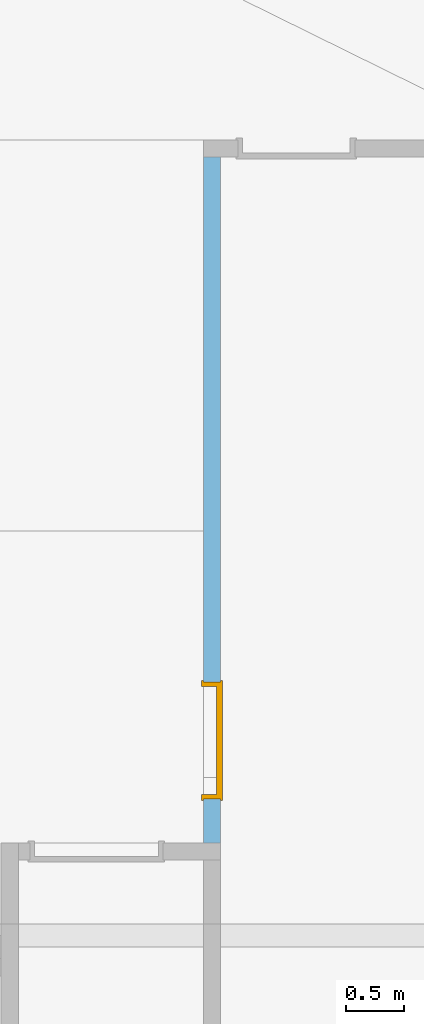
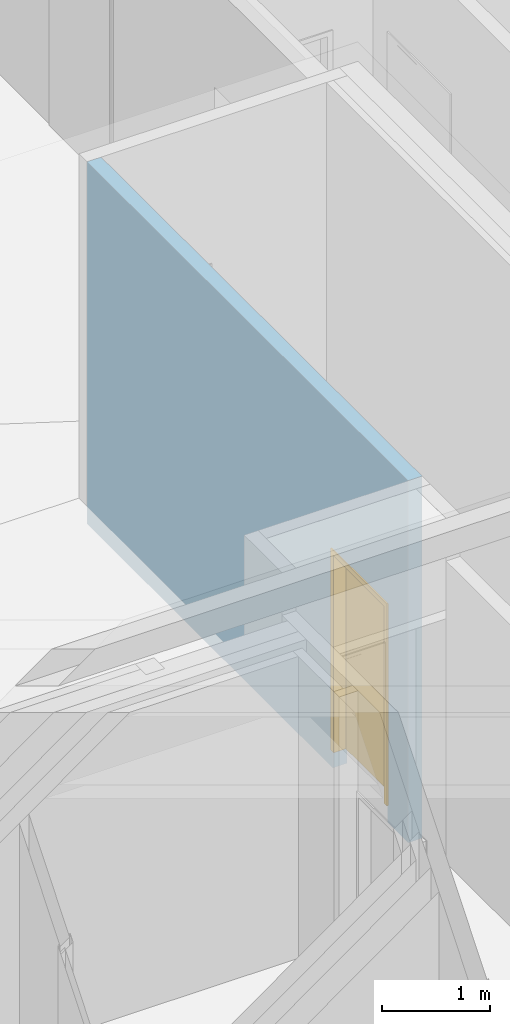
# One storey, part 12 of 23: 1 door, 1 opening, plus 1 element that does not belong to this part.
"""IFC4 building model written with IfcOpenShell, lengths in metres."""

import ifcopenshell
import ifcopenshell.guid

model = None  # the IFC model being written
_history = None  # IfcOwnerHistory: only IFC2X3 demands one
_inside = {}  # id of a spatial element -> (the spatial element, [elements in it])
_under = {}  # id of a project, library or spatial element -> (it, [spatial elements below it])
_declared = {}  # id of a project -> (the project, [libraries it declares])
_typed = {}  # id of a type object -> (the type object, [elements of that type])
_made_of = {}  # id of a material, layer set ... -> (it, [elements and type objects made of it])


def new_model(schema):
    """Start an empty IFC model of exactly this schema.

    Asked for "IFC4X3", IfcOpenShell would pick the latest addendum, in which some entities
    have other attributes; the version numbers below select the first issue.
    IFC2X3 requires an IfcOwnerHistory on every rooted entity: one is made here for all.
    """
    global model, _history
    if schema == "IFC4X3":
        model = ifcopenshell.file(schema_version=(4, 3, 0, 0))
    else:
        model = ifcopenshell.file(schema=schema)
    _inside.clear()
    _under.clear()
    _declared.clear()
    _typed.clear()
    _made_of.clear()
    _history = None
    if model.schema == "IFC2X3":
        org = make("IfcOrganization", Name="unknown")
        user = make(
            "IfcPersonAndOrganization",
            ThePerson=make("IfcPerson", FamilyName="unknown"),
            TheOrganization=org,
        )
        app = make(
            "IfcApplication",
            ApplicationDeveloper=org,
            Version="unknown",
            ApplicationFullName="unknown",
            ApplicationIdentifier="unknown",
        )
        _history = make(
            "IfcOwnerHistory",
            OwningUser=user,
            OwningApplication=app,
            ChangeAction="ADDED",
            CreationDate=0,
        )
    return model


def make(cls, **values):
    """One entity of the class cls with the attributes given. An attribute that is None is left unset."""
    return model.create_entity(
        cls, **{name: value for name, value in values.items() if value is not None}
    )


def entity(cls, *values):
    """Any entity or typed value of the class cls, its attributes in the order of the schema. None: left unset."""
    e = model.create_entity(cls)
    for i, value in enumerate(values):
        if value is not None:
            e[i] = value
    return e


def rooted(cls, **values):
    """An entity with a GlobalId (a new one), such as an element, a storey or a relation."""
    return make(cls, GlobalId=ifcopenshell.guid.new(), OwnerHistory=_history, **values)


def si_unit(unit_type, name, prefix=None):
    """IfcSIUnit, for example si_unit("LENGTHUNIT", "METRE", prefix="MILLI")."""
    return make("IfcSIUnit", UnitType=unit_type, Prefix=prefix, Name=name)


def converted_unit(unit_type, name, factor, base, dimensions=None, offset=None):
    """IfcConversionBasedUnit, such as the inch: factor (a typed value) times the base unit."""
    return make(
        "IfcConversionBasedUnit"
        if offset is None
        else "IfcConversionBasedUnitWithOffset",
        ConversionOffset=offset,
        Dimensions=None
        if dimensions is None
        else entity("IfcDimensionalExponents", *dimensions),
        UnitType=unit_type,
        Name=name,
        ConversionFactor=make(
            "IfcMeasureWithUnit", ValueComponent=factor, UnitComponent=base
        ),
    )


def derived_unit(unit_type, elements):
    """IfcDerivedUnit: a product of units, each with its exponent."""
    return make(
        "IfcDerivedUnit",
        Elements=[
            make("IfcDerivedUnitElement", Unit=unit, Exponent=power)
            for unit, power in elements
        ],
        UnitType=unit_type,
    )


def assignment(units):
    """IfcUnitAssignment: the units of a project."""
    return None if units is None else make("IfcUnitAssignment", Units=units)


def point(xyz):
    """IfcCartesianPoint."""
    return None if xyz is None else make("IfcCartesianPoint", Coordinates=xyz)


def direction(xyz):
    """IfcDirection."""
    return None if xyz is None else make("IfcDirection", DirectionRatios=xyz)


def frame(location, z_axis=None, x_axis=None):
    """IfcAxis2Placement3D, a coordinate frame: its origin and axes. An axis left out is left unset."""
    return make(
        "IfcAxis2Placement3D",
        Location=point(location),
        Axis=direction(z_axis),
        RefDirection=direction(x_axis),
    )


def frame_2d(location, x_axis=None):
    """IfcAxis2Placement2D, a coordinate frame in the plane: its origin and x axis."""
    return make(
        "IfcAxis2Placement2D", Location=point(location), RefDirection=direction(x_axis)
    )


def origin():
    """The frame at (0, 0, 0) with its axes left unset."""
    return frame((0.0, 0.0, 0.0))


def origin_with_axes():
    """The frame at (0, 0, 0) with the z axis (0, 0, 1) and the x axis (1, 0, 0) written out."""
    return frame((0.0, 0.0, 0.0), z_axis=(0.0, 0.0, 1.0), x_axis=(1.0, 0.0, 0.0))


def place(relative_to, where):
    """IfcLocalPlacement: puts the frame where relative to a parent placement (None: the world)."""
    return make(
        "IfcLocalPlacement", PlacementRelTo=relative_to, RelativePlacement=where
    )


def context(
    kind, dimensions, precision=None, world=None, true_north=None, identifier=None
):
    """IfcGeometricRepresentationContext, for example the 3D "Model" context."""
    return make(
        "IfcGeometricRepresentationContext",
        ContextIdentifier=identifier,
        ContextType=kind,
        CoordinateSpaceDimension=dimensions,
        Precision=precision,
        WorldCoordinateSystem=world,
        TrueNorth=true_north,
    )


def subcontext(parent, identifier, kind, view, scale=None):
    """IfcGeometricRepresentationSubContext, for example "Body" below "Model"."""
    return make(
        "IfcGeometricRepresentationSubContext",
        ContextIdentifier=identifier,
        ContextType=kind,
        ParentContext=parent,
        TargetScale=scale,
        TargetView=view,
    )


def project(units=None, contexts=None):
    """IfcProject with its units and contexts."""
    return rooted(
        "IfcProject",
        Name="project",
        RepresentationContexts=contexts,
        UnitsInContext=assignment(units),
    )


def spatial(cls, under=None, at=None, **own):
    """A site, building, storey or space (cls), placed at a placement, below another one or the project."""
    s = rooted(cls, ObjectPlacement=at, **own)
    if under is not None:
        _under.setdefault(under.id(), (under, []))[1].append(s)
    return s


def polyline(points):
    """IfcPolyline through the points."""
    return make("IfcPolyline", Points=[point(p) for p in points])


def profile(cls, at=None, kind="AREA", **sizes):
    """A parametric profile (cls). Its sizes go by their IFC names, for example OverallWidth=200.0."""
    return make(cls, ProfileType=kind, Position=at, **sizes)


def rectangle(**sizes):
    """IfcRectangleProfileDef."""
    return profile("IfcRectangleProfileDef", **sizes)


def outline(outer, holes=None, kind="AREA"):
    """IfcArbitraryClosedProfileDef: a profile drawn as a closed curve; with holes, ...WithVoids."""
    if holes is None:
        return make("IfcArbitraryClosedProfileDef", ProfileType=kind, OuterCurve=outer)
    return make(
        "IfcArbitraryProfileDefWithVoids",
        ProfileType=kind,
        OuterCurve=outer,
        InnerCurves=holes,
    )


def extrude(swept, where, along, depth):
    """IfcExtrudedAreaSolid: the profile swept, set in the frame where, extruded along a direction by depth."""
    return make(
        "IfcExtrudedAreaSolid",
        SweptArea=swept,
        Position=where,
        ExtrudedDirection=direction(along),
        Depth=depth,
    )


def faces_of(points, faces, orient=None, outer=None):
    """IfcFace entities. A face is a list of loops; a loop is a list of indices into points, from 0.

    orient and outer hold one flag for each loop. By default every Orientation is true, the
    first loop of a face is its IfcFaceOuterBound and the others are IfcFaceBound.
    """
    made = []
    for i, loops in enumerate(faces):
        bounds = []
        for j, loop in enumerate(loops):
            is_outer = j == 0 if outer is None else outer[i][j]
            bounds.append(
                make(
                    "IfcFaceOuterBound" if is_outer else "IfcFaceBound",
                    Bound=make("IfcPolyLoop", Polygon=[points[k] for k in loop]),
                    Orientation=True if orient is None else orient[i][j],
                )
            )
        made.append(make("IfcFace", Bounds=bounds))
    return made


def faceted_brep(points, faces, orient=None, outer=None, voids=None):
    """IfcFacetedBrep: a solid bounded by flat faces; with voids (closed shells), ...WithVoids."""
    shared = [point(p) for p in points]
    hull = make("IfcClosedShell", CfsFaces=faces_of(shared, faces, orient, outer))
    if voids is None:
        return make("IfcFacetedBrep", Outer=hull)
    return make(
        "IfcFacetedBrepWithVoids",
        Outer=hull,
        Voids=[
            make(cls, CfsFaces=faces_of(shared, fs, o, b)) for cls, fs, o, b in voids
        ],
    )


def shape(context_of_items, identifier, shape_type, items):
    """IfcShapeRepresentation: the items that make up one representation, for example the "Body"."""
    return make(
        "IfcShapeRepresentation",
        ContextOfItems=context_of_items,
        RepresentationIdentifier=identifier,
        RepresentationType=shape_type,
        Items=items,
    )


def source(mapping_origin, context_of_items, identifier, shape_type, items):
    """IfcRepresentationMap: a shape defined once, which mapped items show again and again."""
    return make(
        "IfcRepresentationMap",
        MappingOrigin=mapping_origin,
        MappedRepresentation=shape(context_of_items, identifier, shape_type, items),
    )


def transform(
    local_origin,
    x_axis=None,
    y_axis=None,
    z_axis=None,
    scale=None,
    scale2=None,
    scale3=None,
    uniform=True,
):
    """IfcCartesianTransformationOperator3D, or its non-uniform kind. x_axis, y_axis, z_axis: its Axis1, 2, 3."""
    if uniform:
        return make(
            "IfcCartesianTransformationOperator3D",
            Axis1=direction(x_axis),
            Axis2=direction(y_axis),
            LocalOrigin=point(local_origin),
            Scale=scale,
            Axis3=direction(z_axis),
        )
    return make(
        "IfcCartesianTransformationOperator3DnonUniform",
        Axis1=direction(x_axis),
        Axis2=direction(y_axis),
        LocalOrigin=point(local_origin),
        Scale=scale,
        Axis3=direction(z_axis),
        Scale2=scale2,
        Scale3=scale3,
    )


def mapped(mapping_source, mapping_target):
    """IfcMappedItem: shows the shape of a source again, moved by a transform."""
    return make(
        "IfcMappedItem", MappingSource=mapping_source, MappingTarget=mapping_target
    )


def material(Name=None, Category=None):
    """IfcMaterial."""
    return make("IfcMaterial", Name=Name, Category=Category)


def made_of(thing, what):
    """Note that an element or type object is made of a material, layer set ...; save() writes the relation."""
    if what is not None:
        _made_of.setdefault(what.id(), (what, []))[1].append(thing)
    return thing


def type_object(cls, material=None, **own):
    """A type object (cls), such as IfcWallType, which elements share."""
    return made_of(rooted(cls, **own), material)


def element(
    cls,
    number,
    at=None,
    inside=None,
    cuts=None,
    type_object=None,
    material=None,
    context=None,
    identifier="Body",
    shape_type=None,
    held_by="IfcProductDefinitionShape",
    body=None,
    shapes=None,
    **own,
):
    """One element of the class cls, such as IfcWall. Its Tag is "e" and its number.

    at: its placement. inside: the storey or other place that contains it. cuts: it is an
    opening in that element (IfcRelVoidsElement). A single representation is given by context,
    identifier, shape_type and body (its items); several are given by shapes. held_by: the class
    of the entity that holds the representations. save() writes the other relations.
    """
    e = rooted(cls, Tag="e%d" % number, ObjectPlacement=at, **own)
    if body is not None:
        shapes = [shape(context, identifier, shape_type, body)]
    if shapes is not None:
        e.Representation = make(held_by, Representations=shapes)
    if inside is not None:
        _inside.setdefault(inside.id(), (inside, []))[1].append(e)
    if cuts is not None:
        rooted(
            "IfcRelVoidsElement", RelatingBuildingElement=cuts, RelatedOpeningElement=e
        )
    if type_object is not None:
        _typed.setdefault(type_object.id(), (type_object, []))[1].append(e)
    return made_of(e, material)


def fill(opening, filler):
    """IfcRelFillsElement: the door or window that sits in an opening."""
    return rooted(
        "IfcRelFillsElement",
        RelatingOpeningElement=opening,
        RelatedBuildingElement=filler,
    )


def aggregate(whole, parts):
    """IfcRelAggregates: a whole, such as a stair, and the parts it consists of."""
    return rooted("IfcRelAggregates", RelatingObject=whole, RelatedObjects=parts)


def save(model, path):
    """Write the relations noted so far, then the file.

    IfcRelAggregates (storeys below a building ...), IfcRelContainedInSpatialStructure (elements
    in a storey), IfcRelDefinesByType, IfcRelAssociatesMaterial and IfcRelDeclares: one each for
    every whole, place, type object, material and project.
    """
    for whole, parts in _under.values():
        aggregate(whole, parts)
    for where, things in _inside.values():
        rooted(
            "IfcRelContainedInSpatialStructure",
            RelatedElements=things,
            RelatingStructure=where,
        )
    for kind, things in _typed.values():
        rooted("IfcRelDefinesByType", RelatedObjects=things, RelatingType=kind)
    for what, things in _made_of.values():
        rooted("IfcRelAssociatesMaterial", RelatedObjects=things, RelatingMaterial=what)
    for by, libraries in _declared.values():
        rooted("IfcRelDeclares", RelatingContext=by, RelatedDefinitions=libraries)
    model.write(path)


model = new_model("IFC4")

# Units and contexts
model_context = context("Model", 3, precision=1e-05, world=origin())
body_context = subcontext(model_context, "Body", "Model", "MODEL_VIEW")
ifc_project = project(units=[si_unit("LENGTHUNIT", "METRE"), si_unit("AREAUNIT", "SQUARE_METRE"), si_unit("VOLUMEUNIT", "CUBIC_METRE"), si_unit("MASSUNIT", "GRAM", prefix="KILO"), converted_unit("PLANEANGLEUNIT", "DEGREE", entity("IfcPlaneAngleMeasure", 0.0174532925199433), si_unit("PLANEANGLEUNIT", "RADIAN"), dimensions=[0, 0, 0, 0, 0, 0, 0]), derived_unit("THERMALTRANSMITTANCEUNIT", [(si_unit("POWERUNIT", "WATT"), 1), (si_unit("THERMODYNAMICTEMPERATUREUNIT", "KELVIN"), -1), (si_unit("LENGTHUNIT", "METRE"), -2)]), derived_unit("VOLUMETRICFLOWRATEUNIT", [(si_unit("LENGTHUNIT", "METRE"), 3), (converted_unit("TIMEUNIT", "hour", entity("IfcTimeMeasure", 3600.0), si_unit("TIMEUNIT", "SECOND"), dimensions=[0, 0, 1, 0, 0, 0, 0]), -1), (si_unit("LENGTHUNIT", "METRE"), -1)])], contexts=[model_context])

# Site, building, storey
site_placement = place(None, origin())
site = spatial("IfcSite", under=ifc_project, at=site_placement, Name="Psychiatrie Neubau Wunstorf", CompositionType="ELEMENT")
building_placement = place(site_placement, origin())
building = spatial("IfcBuilding", under=site, at=building_placement, Name="Neubau H1 Sozialzentrum", CompositionType="ELEMENT")
storey_placement = place(building_placement, frame((0.0, 0.0, 0.7)))
storey = spatial("IfcBuildingStorey", under=building, at=storey_placement, Name="H1 Ebene 0", CompositionType="ELEMENT", Elevation=0.7)

# Wall, opening, door
ifc_material_1 = material(Name="WI-IW")
wall_placement = place(storey_placement, frame((-7.94152706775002, 21.1382463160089, -0.2), z_axis=(0.0, 0.0, 1.0), x_axis=(7.4479226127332e-08, -0.999999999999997, 0.0)))
wall = element("IfcWall", 1, at=wall_placement, inside=storey, material=ifc_material_1, context=body_context, shape_type="SweptSolid", body=[
    extrude(rectangle(XDim=5.92599993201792, YDim=0.149999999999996, at=frame_2d((2.96299996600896, 0.0749999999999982), x_axis=(1.0, 0.0))), origin_with_axes(), (0.0, 0.0, 1.0), 4.08),
])
opening_placement = place(wall_placement, frame((5.54600038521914, 0.149999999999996, 0.0), z_axis=(0.0, -1.0, 0.0), x_axis=(0.0, 0.0, 1.0)))
opening = element("IfcOpeningElement", 2, at=opening_placement, cuts=wall, Name="Türöffnung", ObjectType="Opening", context=body_context, shape_type="SweptSolid", body=[
    extrude(outline(polyline([(2.46, 1.01), (2.46, 0.0), (0.0, 0.0), (0.0, 1.01), (2.46, 1.01)])), origin_with_axes(), (0.0, 0.0, 1.0), 0.149999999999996),
])
ifc_material_2 = material(Name="TI-1F-UZ-ZK")
door_type = type_object("IfcDoorType", Name="SMT", OperationType="SINGLE_SWING_RIGHT", ParameterTakesPrecedence=False, PredefinedType="DOOR")
shared_shape = source(origin_with_axes(), body_context, "Body", "Brep", [
    faceted_brep([(1.01000001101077, -0.0149999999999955, 2.46), (1.01000001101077, -0.0149999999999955, 0.2), (0.970000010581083, -0.0149999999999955, 0.2), (0.970000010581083, -0.0149999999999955, 2.46), (1.01000001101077, 0.165000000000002, 0.2), (1.01000001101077, 0.165000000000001, 2.46), (0.970000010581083, 0.165000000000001, 2.46), (0.970000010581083, 0.165000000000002, 0.2)], [[[0, 1, 2, 3]], [[4, 5, 6, 7]], [[1, 0, 5, 4]], [[2, 1, 4, 7]], [[3, 2, 7, 6]], [[0, 3, 6, 5]]], orient=[[False], [False], [False], [False], [False], [False]]),
    faceted_brep([(1.01000001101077, -0.0149999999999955, 2.475), (1.0250000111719, -0.0149999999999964, 2.475), (1.0250000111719, -0.0149999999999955, 0.2), (1.01000001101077, -0.0149999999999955, 0.2), (1.01000001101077, 0.0, 0.2), (1.0250000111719, 0.0, 0.2), (1.0250000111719, 0.0, 2.475), (1.01000001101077, 0.0, 2.475)], [[[0, 1, 2, 3]], [[4, 5, 6, 7]], [[3, 4, 7, 0]], [[2, 5, 4, 3]], [[1, 6, 5, 2]], [[0, 7, 6, 1]]], orient=[[False], [False], [False], [False], [False], [False]]),
    faceted_brep([(1.01000001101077, 0.150000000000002, 2.475), (1.0250000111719, 0.150000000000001, 2.475), (1.0250000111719, 0.150000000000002, 0.2), (1.01000001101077, 0.150000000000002, 0.2), (1.01000001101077, 0.165000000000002, 0.2), (1.0250000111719, 0.165000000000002, 0.2), (1.0250000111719, 0.165000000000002, 2.475), (1.01000001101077, 0.165000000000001, 2.475)], [[[0, 1, 2, 3]], [[4, 5, 6, 7]], [[3, 4, 7, 0]], [[2, 5, 4, 3]], [[1, 6, 5, 2]], [[0, 7, 6, 1]]], orient=[[False], [False], [False], [False], [False], [False]]),
    faceted_brep([(0.0400000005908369, -0.0149999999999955, 2.46), (0.0400000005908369, -0.0149999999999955, 0.2), (0.0, -0.0149999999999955, 0.2), (0.0, -0.0149999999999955, 2.46), (0.0400000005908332, 0.165000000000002, 0.2), (0.0400000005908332, 0.165000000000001, 2.46), (0.0, 0.165000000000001, 2.46), (0.0, 0.165000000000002, 0.2)], [[[0, 1, 2, 3]], [[4, 5, 6, 7]], [[1, 0, 5, 4]], [[2, 1, 4, 7]], [[3, 2, 7, 6]], [[0, 3, 6, 5]]], orient=[[False], [False], [False], [False], [False], [False]]),
    faceted_brep([(0.0, -0.0149999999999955, 2.475), (0.0, -0.0149999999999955, 0.2), (-0.0149999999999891, -0.0149999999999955, 0.2), (-0.0149999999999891, -0.0149999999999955, 2.475), (0.0, 0.0, 0.2), (0.0, 0.0, 2.475), (-0.0149999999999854, 0.0, 2.475), (-0.0149999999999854, 0.0, 0.2)], [[[0, 1, 2, 3]], [[4, 5, 6, 7]], [[1, 0, 5, 4]], [[2, 1, 4, 7]], [[3, 2, 7, 6]], [[0, 3, 6, 5]]], orient=[[False], [False], [False], [False], [False], [False]]),
    faceted_brep([(0.0, 0.150000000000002, 2.475), (0.0, 0.150000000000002, 0.2), (-0.0149999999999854, 0.150000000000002, 0.2), (-0.0149999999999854, 0.150000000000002, 2.475), (0.0, 0.165000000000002, 0.2), (0.0, 0.165000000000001, 2.475), (-0.0149999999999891, 0.165000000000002, 2.475), (-0.0149999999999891, 0.165000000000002, 0.2)], [[[0, 1, 2, 3]], [[4, 5, 6, 7]], [[1, 0, 5, 4]], [[2, 1, 4, 7]], [[3, 2, 7, 6]], [[0, 3, 6, 5]]], orient=[[False], [False], [False], [False], [False], [False]]),
    faceted_brep([(0.970000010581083, -0.0149999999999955, 2.46), (0.970000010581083, -0.0149999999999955, 2.42), (0.0400000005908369, -0.0149999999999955, 2.42), (0.0400000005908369, -0.0149999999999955, 2.46), (0.970000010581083, 0.165000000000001, 2.42), (0.970000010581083, 0.165000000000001, 2.46), (0.0400000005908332, 0.165000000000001, 2.46), (0.0400000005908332, 0.165000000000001, 2.42)], [[[0, 1, 2, 3]], [[4, 5, 6, 7]], [[1, 0, 5, 4]], [[2, 1, 4, 7]], [[3, 2, 7, 6]], [[0, 3, 6, 5]]], orient=[[False], [False], [False], [False], [False], [False]]),
    faceted_brep([(1.01000001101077, -0.0149999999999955, 2.475), (1.01000001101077, -0.0149999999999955, 2.46), (0.0, -0.0149999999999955, 2.46), (0.0, -0.0149999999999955, 2.475), (1.01000001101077, 0.0, 2.46), (1.01000001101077, 0.0, 2.475), (0.0, 0.0, 2.475), (0.0, 0.0, 2.46)], [[[0, 1, 2, 3]], [[4, 5, 6, 7]], [[1, 0, 5, 4]], [[2, 1, 4, 7]], [[3, 2, 7, 6]], [[0, 3, 6, 5]]], orient=[[False], [False], [False], [False], [False], [False]]),
    faceted_brep([(1.01000001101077, 0.150000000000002, 2.475), (1.01000001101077, 0.150000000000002, 2.46), (0.0, 0.150000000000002, 2.46), (0.0, 0.150000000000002, 2.475), (1.01000001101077, 0.165000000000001, 2.46), (1.01000001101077, 0.165000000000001, 2.475), (0.0, 0.165000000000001, 2.475), (0.0, 0.165000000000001, 2.46)], [[[0, 1, 2, 3]], [[4, 5, 6, 7]], [[1, 0, 5, 4]], [[2, 1, 4, 7]], [[3, 2, 7, 6]], [[0, 3, 6, 5]]], orient=[[False], [False], [False], [False], [False], [False]]),
    faceted_brep([(0.985000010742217, 0.116000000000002, 2.435), (0.985000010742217, 0.116000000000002, 0.2), (0.0250000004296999, 0.116000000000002, 0.2), (0.0250000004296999, 0.116000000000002, 2.435), (0.985000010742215, 0.166000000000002, 0.2), (0.985000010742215, 0.166000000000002, 2.435), (0.0250000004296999, 0.166000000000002, 2.435), (0.0250000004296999, 0.166000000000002, 0.2)], [[[0, 1, 2, 3]], [[4, 5, 6, 7]], [[1, 0, 5, 4]], [[2, 1, 4, 7]], [[3, 2, 7, 6]], [[0, 3, 6, 5]]], orient=[[False], [False], [False], [False], [False], [False]]),
])
door_placement = place(opening_placement, frame((0.0, 1.01000001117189, 0.149999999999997), z_axis=(1.0, 0.0, 0.0), x_axis=(0.0, -1.0, -8.43692461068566e-17)))
door = element("IfcDoor", 3, at=door_placement, inside=storey, type_object=door_type, material=ifc_material_2, Name="SMT", OverallHeight=2.46, OverallWidth=1.01, context=body_context, shape_type="MappedRepresentation", body=[
    mapped(shared_shape, transform((0.0, 0.0, 0.0), x_axis=(1.0, 0.0, 0.0), y_axis=(0.0, 1.0, 0.0), z_axis=(0.0, 0.0, 1.0), scale=1.0)),
])
fill(opening, door)

save(model, "model.ifc")
